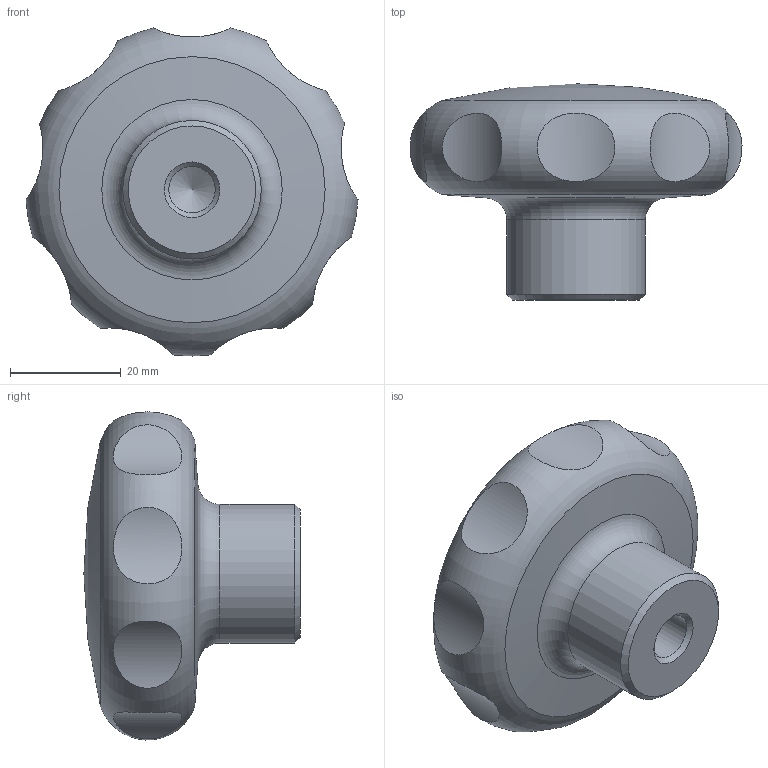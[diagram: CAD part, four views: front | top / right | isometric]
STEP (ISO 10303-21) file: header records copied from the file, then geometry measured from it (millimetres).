
FILE_DESCRIPTION( ( 'STEP AP203' ), '1' );
FILE_NAME( 'C:/Temp/Ganter_Step_05_03_2020/data/2_2/gn_5335/gn_5335_ni_e/Stainless steel-Star knob GN 5335-60-M10-E.stp', '2020-03-05T12:10:26', ( 'License CC BY-ND 4.0' ), ( 'CADENAS' ), ' ', 'PARTsolutions', ' ' );
FILE_SCHEMA( ( 'CONFIG_CONTROL_DESIGN' ) );
Length unit declared in the file: millimetre
Products named in the file (1): _Stainless steel-Star knob GN 5335-60-M10-E
Bounding box: 59.88 x 39 x 59.16 mm (x, y, z)
Volume: 53217.6 mm3; surface area: 9264.5 mm2
Topology: 1 solids, 1 shells, 19 faces, 30 edges, 21 vertices
Faces by surface type: cylinder 11, cone 3, torus 2, sphere 2, plane 1
Full cylindrical faces by diameter (mm): 8.376 x1, 25 x1
Entity records: 1174 total; most frequent: CARTESIAN_POINT 830, DIRECTION 58, EDGE_LOOP 36, ORIENTED_EDGE 36, AXIS2_PLACEMENT_3D 29, FACE_OUTER_BOUND 24, VERTEX_POINT 21, ADVANCED_FACE 19
